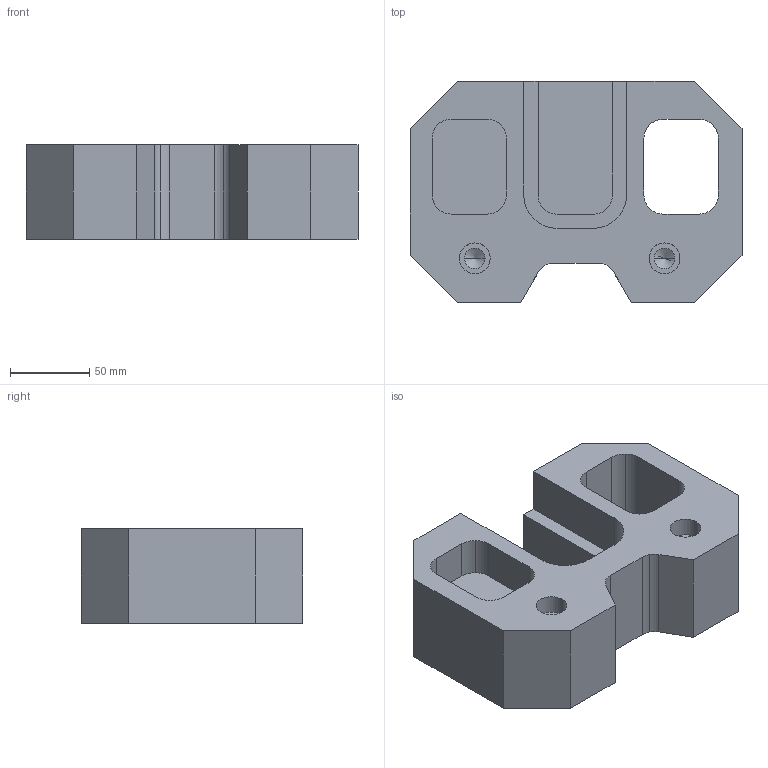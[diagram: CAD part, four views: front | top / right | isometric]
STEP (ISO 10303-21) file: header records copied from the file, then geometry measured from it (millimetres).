
FILE_DESCRIPTION(('STEP AP242'),'1');
FILE_NAME('PRISMATIC_ind_01.stp','2023-02-10T08:57:05',(' '),(' '),'Spatial InterOp 3D',' ',' ');
FILE_SCHEMA(('AP242_MANAGED_MODEL_BASED_3D_ENGINEERING_MIM_LF {1 0 10303 442 1 1 4}'));
Length unit declared in the file: millimetre
Products named in the file (2): PRISMATIC_ind_01; through_po_test_01
Assembly tree (1 placements, depth 2):
  PRISMATIC_ind_01
    through_po_test_01
Bounding box: 210 x 140 x 60 mm (x, y, z)
Volume: 1049430.9 mm3; surface area: 115295.5 mm2
Topology: 1 solids, 1 shells, 73 faces, 200 edges, 130 vertices
Faces by surface type: cylinder 36, plane 33, cone 4
Entity records: 2362 total; most frequent: DIRECTION 418, CARTESIAN_POINT 401, ORIENTED_EDGE 392, EDGE_CURVE 196, AXIS2_PLACEMENT_3D 147, VERTEX_POINT 130, LINE 124, VECTOR 124
